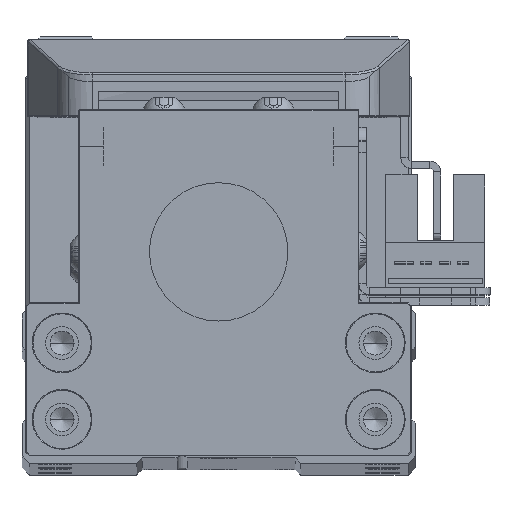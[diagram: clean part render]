
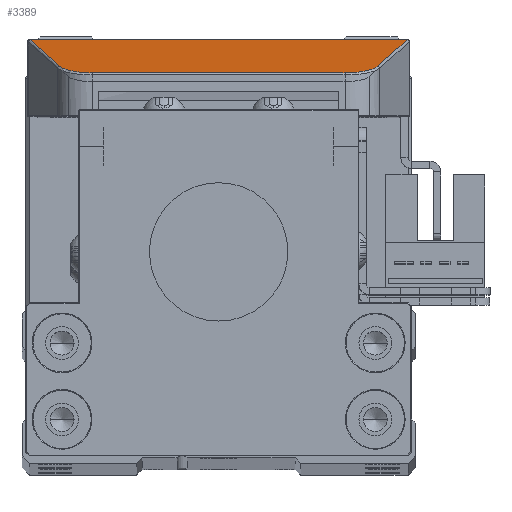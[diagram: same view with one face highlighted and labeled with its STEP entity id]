
A CAD part, top view. The second image highlights one B-rep face of the part: STEP entity #3389.
In plain terms, the highlighted planar face has unit normal (0, 0.962, 0.274) as drawn and (0, 0.274, 0.962) by its records, which use the part's own axes.
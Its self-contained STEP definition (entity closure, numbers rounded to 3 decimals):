
#53 = LINE ( 'NONE', #1063, #32789 ) ;
#55 = EDGE_CURVE ( 'NONE', #19760, #20433, #30616, .T. ) ;
#388 = CARTESIAN_POINT ( 'NONE',  ( -21.179, 24.03, -4.281 ) ) ;
#695 =( BOUNDED_CURVE ( )  B_SPLINE_CURVE ( 3, ( #25048, #6991, #9625, #27661 ),
 .UNSPECIFIED., .F., .T. ) 
 B_SPLINE_CURVE_WITH_KNOTS ( ( 4, 4 ),
 ( 5.02, 6.283 ),
 .UNSPECIFIED. ) 
 CURVE ( )  GEOMETRIC_REPRESENTATION_ITEM ( )  RATIONAL_B_SPLINE_CURVE ( ( 1., 0.871, 0.871, 1. ) ) 
 REPRESENTATION_ITEM ( '' )  );
#1063 = CARTESIAN_POINT ( 'NONE',  ( 15.221, 42.754, -9.615 ) ) ;
#1293 = LINE ( 'NONE', #6007, #14263 ) ;
#2979 = AXIS2_PLACEMENT_3D ( 'NONE', #19814, #4370, #22440 ) ;
#2997 = CARTESIAN_POINT ( 'NONE',  ( -19.466, 25.282, -4.638 ) ) ;
#3254 = ORIENTED_EDGE ( 'NONE', *, *, #8662, .T. ) ;
#3389 = ADVANCED_FACE ( 'NONE', ( #10536 ), #17253, .F. ) ;
#4370 = DIRECTION ( 'NONE',  ( 0., -0.274, -0.962 ) ) ;
#4852 = EDGE_LOOP ( 'NONE', ( #32831, #16956, #31923, #31212, #22755, #29117, #3254, #27018 ) ) ;
#5072 = CARTESIAN_POINT ( 'NONE',  ( 25.874, 9.275, -0.078 ) ) ;
#5215 = CARTESIAN_POINT ( 'NONE',  ( 25.87, 9.287, -0.082 ) ) ;
#5589 = CARTESIAN_POINT ( 'NONE',  ( -21.823, 22.007, -3.705 ) ) ;
#6007 = CARTESIAN_POINT ( 'NONE',  ( -22.655, 19.393, -2.96 ) ) ;
#6095 = CARTESIAN_POINT ( 'NONE',  ( -21.823, 22.007, -3.705 ) ) ;
#6112 = DIRECTION ( 'NONE',  ( -0.293, -0.92, 0.262 ) ) ;
#6640 = CARTESIAN_POINT ( 'NONE',  ( -25.87, 9.287, -0.082 ) ) ;
#6713 = CARTESIAN_POINT ( 'NONE',  ( -17.344, 25.282, -4.638 ) ) ;
#6821 = VERTEX_POINT ( 'NONE', #10808 ) ;
#6991 = CARTESIAN_POINT ( 'NONE',  ( 21.179, 24.03, -4.281 ) ) ;
#7746 = DIRECTION ( 'NONE',  ( 1., 0., 0. ) ) ;
#8662 = EDGE_CURVE ( 'NONE', #25936, #14628, #1293, .T. ) ;
#9213 =( BOUNDED_CURVE ( )  B_SPLINE_CURVE ( 3, ( #12898, #5072, #15478, #5215 ),
 .UNSPECIFIED., .F., .F. ) 
 B_SPLINE_CURVE_WITH_KNOTS ( ( 4, 4 ),
 ( 5.009, 5.02 ),
 .UNSPECIFIED. ) 
 CURVE ( )  GEOMETRIC_REPRESENTATION_ITEM ( )  RATIONAL_B_SPLINE_CURVE ( ( 1., 1., 1., 1. ) ) 
 REPRESENTATION_ITEM ( '' )  );
#9625 = CARTESIAN_POINT ( 'NONE',  ( 19.466, 25.282, -4.638 ) ) ;
#10536 = FACE_OUTER_BOUND ( 'NONE', #4852, .T. ) ;
#10793 = EDGE_CURVE ( 'NONE', #6821, #21433, #53, .T. ) ;
#10808 = CARTESIAN_POINT ( 'NONE',  ( 25.87, 9.287, -0.082 ) ) ;
#12357 = CARTESIAN_POINT ( 'NONE',  ( -25.872, 9.281, -0.08 ) ) ;
#12500 = CARTESIAN_POINT ( 'NONE',  ( -25.876, 9.269, -0.077 ) ) ;
#12898 = CARTESIAN_POINT ( 'NONE',  ( 25.876, 9.269, -0.077 ) ) ;
#13341 = LINE ( 'NONE', #6713, #26256 ) ;
#14263 = VECTOR ( 'NONE', #6112, 1000. ) ;
#14628 = VERTEX_POINT ( 'NONE', #6640 ) ;
#14898 = EDGE_CURVE ( 'NONE', #26170, #25936, #21064, .T. ) ;
#15478 = CARTESIAN_POINT ( 'NONE',  ( 25.872, 9.281, -0.08 ) ) ;
#16727 = CARTESIAN_POINT ( 'NONE',  ( 21.823, 22.007, -3.705 ) ) ;
#16956 = ORIENTED_EDGE ( 'NONE', *, *, #23905, .T. ) ;
#17253 = PLANE ( 'NONE',  #2979 ) ;
#17527 = CARTESIAN_POINT ( 'NONE',  ( -25.876, 9.269, -0.077 ) ) ;
#18635 = EDGE_CURVE ( 'NONE', #14628, #19760, #33215, .T. ) ;
#19760 = VERTEX_POINT ( 'NONE', #12500 ) ;
#19814 = CARTESIAN_POINT ( 'NONE',  ( -43.406, 25.5, -4.7 ) ) ;
#20433 = VERTEX_POINT ( 'NONE', #30839 ) ;
#21058 = CARTESIAN_POINT ( 'NONE',  ( -17.344, 25.282, -4.638 ) ) ;
#21064 =( BOUNDED_CURVE ( )  B_SPLINE_CURVE ( 3, ( #21058, #2997, #388, #5589 ),
 .UNSPECIFIED., .F., .F. ) 
 B_SPLINE_CURVE_WITH_KNOTS ( ( 4, 4 ),
 ( 0., 1.263 ),
 .UNSPECIFIED. ) 
 CURVE ( )  GEOMETRIC_REPRESENTATION_ITEM ( )  RATIONAL_B_SPLINE_CURVE ( ( 1., 0.871, 0.871, 1. ) ) 
 REPRESENTATION_ITEM ( '' )  );
#21433 = VERTEX_POINT ( 'NONE', #16727 ) ;
#21720 = DIRECTION ( 'NONE',  ( -0.293, 0.92, -0.262 ) ) ;
#22440 = DIRECTION ( 'NONE',  ( 0., 0.962, -0.274 ) ) ;
#22755 = ORIENTED_EDGE ( 'NONE', *, *, #22853, .T. ) ;
#22853 = EDGE_CURVE ( 'NONE', #28616, #26170, #13341, .T. ) ;
#23753 = VECTOR ( 'NONE', #7746, 1000. ) ;
#23905 = EDGE_CURVE ( 'NONE', #20433, #6821, #9213, .T. ) ;
#24772 = DIRECTION ( 'NONE',  ( -1., 0., 0. ) ) ;
#25048 = CARTESIAN_POINT ( 'NONE',  ( 21.823, 22.007, -3.705 ) ) ;
#25936 = VERTEX_POINT ( 'NONE', #6095 ) ;
#26170 = VERTEX_POINT ( 'NONE', #32954 ) ;
#26256 = VECTOR ( 'NONE', #24772, 1000. ) ;
#27018 = ORIENTED_EDGE ( 'NONE', *, *, #18635, .T. ) ;
#27661 = CARTESIAN_POINT ( 'NONE',  ( 17.344, 25.282, -4.638 ) ) ;
#28616 = VERTEX_POINT ( 'NONE', #28863 ) ;
#28863 = CARTESIAN_POINT ( 'NONE',  ( 17.344, 25.282, -4.638 ) ) ;
#29117 = ORIENTED_EDGE ( 'NONE', *, *, #14898, .T. ) ;
#30372 = CARTESIAN_POINT ( 'NONE',  ( -25.87, 9.287, -0.082 ) ) ;
#30616 = LINE ( 'NONE', #32462, #23753 ) ;
#30801 = EDGE_CURVE ( 'NONE', #21433, #28616, #695, .T. ) ;
#30839 = CARTESIAN_POINT ( 'NONE',  ( 25.876, 9.269, -0.077 ) ) ;
#31212 = ORIENTED_EDGE ( 'NONE', *, *, #30801, .T. ) ;
#31923 = ORIENTED_EDGE ( 'NONE', *, *, #10793, .T. ) ;
#32462 = CARTESIAN_POINT ( 'NONE',  ( 26.25, 9.269, -0.077 ) ) ;
#32789 = VECTOR ( 'NONE', #21720, 1000. ) ;
#32831 = ORIENTED_EDGE ( 'NONE', *, *, #55, .T. ) ;
#32954 = CARTESIAN_POINT ( 'NONE',  ( -17.344, 25.282, -4.638 ) ) ;
#32990 = CARTESIAN_POINT ( 'NONE',  ( -25.874, 9.275, -0.078 ) ) ;
#33215 =( BOUNDED_CURVE ( )  B_SPLINE_CURVE ( 3, ( #30372, #12357, #32990, #17527 ),
 .UNSPECIFIED., .F., .T. ) 
 B_SPLINE_CURVE_WITH_KNOTS ( ( 4, 4 ),
 ( 1.263, 1.274 ),
 .UNSPECIFIED. ) 
 CURVE ( )  GEOMETRIC_REPRESENTATION_ITEM ( )  RATIONAL_B_SPLINE_CURVE ( ( 1., 1., 1., 1. ) ) 
 REPRESENTATION_ITEM ( '' )  );
